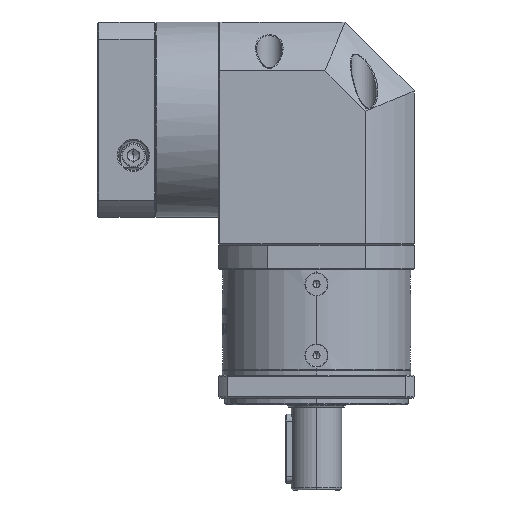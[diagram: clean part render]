
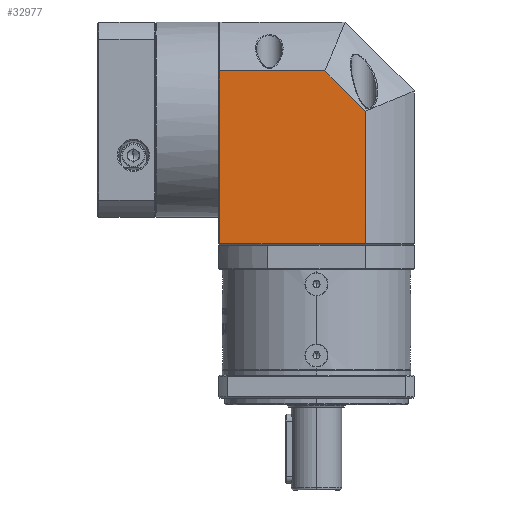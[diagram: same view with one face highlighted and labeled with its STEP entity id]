
A CAD part, left-side view. The second image highlights one B-rep face of the part: STEP entity #32977.
In plain terms, the highlighted planar face has unit normal (-1, 0, 0).
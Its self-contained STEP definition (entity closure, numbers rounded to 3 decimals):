
#9929 = CARTESIAN_POINT ( 'NONE',  ( -15.33, 115.697, 1.315 ) ) ;
#12885 = PLANE ( 'NONE',  #16776 ) ;
#16717 = FACE_OUTER_BOUND ( 'NONE', #27735, .T. ) ;
#16776 = AXIS2_PLACEMENT_3D ( 'NONE', #83000, #180550, #97018 ) ;
#20224 = VERTEX_POINT ( 'NONE', #116452 ) ;
#27735 = EDGE_LOOP ( 'NONE', ( #115736, #42747, #71027, #159099, #103320 ) ) ;
#32977 = ADVANCED_FACE ( 'NONE', ( #16717 ), #12885, .F. ) ;
#33475 = VERTEX_POINT ( 'NONE', #163898 ) ;
#42712 = DIRECTION ( 'NONE',  ( 0., -0.707, -0.707 ) ) ;
#42747 = ORIENTED_EDGE ( 'NONE', *, *, #88811, .F. ) ;
#50154 = VERTEX_POINT ( 'NONE', #166443 ) ;
#51385 = VERTEX_POINT ( 'NONE', #62410 ) ;
#51576 = EDGE_CURVE ( 'NONE', #180953, #20224, #107687, .T. ) ;
#52570 = DIRECTION ( 'NONE',  ( 0., 0., 1. ) ) ;
#62410 = CARTESIAN_POINT ( 'NONE',  ( -15.33, 69.514, 76.528 ) ) ;
#68780 = DIRECTION ( 'NONE',  ( 0., -1., 0. ) ) ;
#70532 = VECTOR ( 'NONE', #52570, 1000. ) ;
#71027 = ORIENTED_EDGE ( 'NONE', *, *, #117473, .F. ) ;
#72503 = EDGE_CURVE ( 'NONE', #20224, #51385, #117218, .T. ) ;
#79173 = EDGE_CURVE ( 'NONE', #180953, #50154, #120555, .T. ) ;
#83000 = CARTESIAN_POINT ( 'NONE',  ( -15.33, 115.697, 97.815 ) ) ;
#88811 = EDGE_CURVE ( 'NONE', #33475, #50154, #151475, .T. ) ;
#97018 = DIRECTION ( 'NONE',  ( 0., 1., 0. ) ) ;
#103320 = ORIENTED_EDGE ( 'NONE', *, *, #51576, .F. ) ;
#107687 = LINE ( 'NONE', #122076, #70532 ) ;
#108969 = LINE ( 'NONE', #166477, #141693 ) ;
#114309 = VECTOR ( 'NONE', #155371, 1000. ) ;
#115736 = ORIENTED_EDGE ( 'NONE', *, *, #79173, .T. ) ;
#116141 = VECTOR ( 'NONE', #162987, 1000. ) ;
#116452 = CARTESIAN_POINT ( 'NONE',  ( -15.33, 115.197, 76.528 ) ) ;
#117218 = LINE ( 'NONE', #152310, #149994 ) ;
#117473 = EDGE_CURVE ( 'NONE', #51385, #33475, #108969, .T. ) ;
#120555 = LINE ( 'NONE', #9929, #116141 ) ;
#122076 = CARTESIAN_POINT ( 'NONE',  ( -15.33, 115.197, 97.815 ) ) ;
#123528 = CARTESIAN_POINT ( 'NONE',  ( -15.33, 115.197, 1.315 ) ) ;
#141693 = VECTOR ( 'NONE', #42712, 1000. ) ;
#149994 = VECTOR ( 'NONE', #68780, 1000. ) ;
#151475 = LINE ( 'NONE', #157743, #114309 ) ;
#152310 = CARTESIAN_POINT ( 'NONE',  ( -15.33, 115.697, 76.528 ) ) ;
#155371 = DIRECTION ( 'NONE',  ( 0., 0., -1. ) ) ;
#157743 = CARTESIAN_POINT ( 'NONE',  ( -15.33, 51.984, 101.315 ) ) ;
#159099 = ORIENTED_EDGE ( 'NONE', *, *, #72503, .F. ) ;
#162987 = DIRECTION ( 'NONE',  ( 0., -1., 0. ) ) ;
#163898 = CARTESIAN_POINT ( 'NONE',  ( -15.33, 51.984, 58.998 ) ) ;
#166443 = CARTESIAN_POINT ( 'NONE',  ( -15.33, 51.984, 1.315 ) ) ;
#166477 = CARTESIAN_POINT ( 'NONE',  ( -15.33, 69.514, 76.528 ) ) ;
#180550 = DIRECTION ( 'NONE',  ( 1., 0., 0. ) ) ;
#180953 = VERTEX_POINT ( 'NONE', #123528 ) ;
